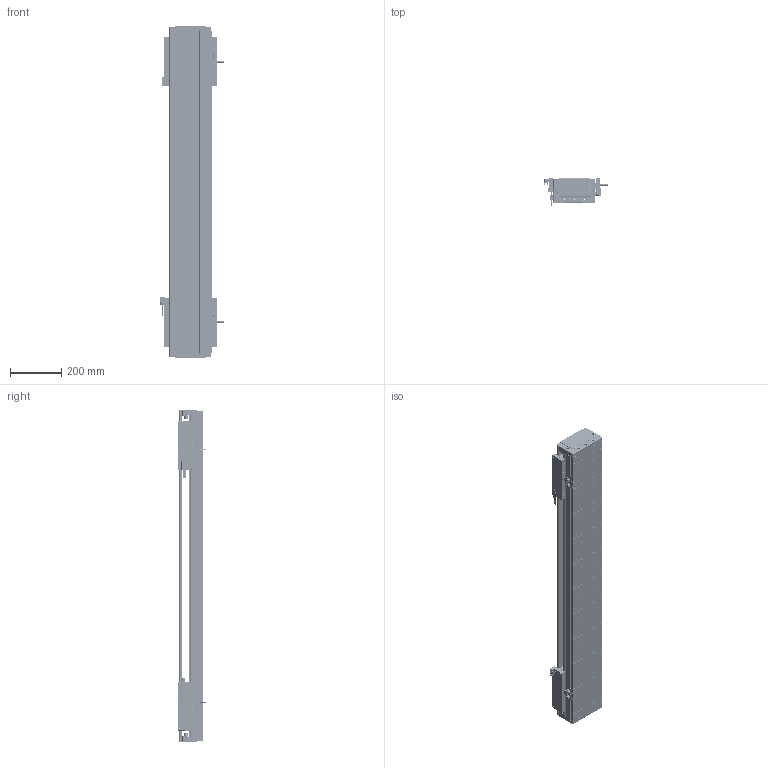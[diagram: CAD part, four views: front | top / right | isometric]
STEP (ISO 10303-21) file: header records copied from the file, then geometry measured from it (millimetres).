
FILE_DESCRIPTION (( 'STEP AP203' ), '1' );
FILE_NAME ('DA-C165-2-C2-T800-C010-0.2 直线电机.STEP', '2023-05-11T08:18:22', ( '微软用户' ), ( '微软中国' ), 'SwSTEP 2.0', 'SolidWorks 2019', '' );
FILE_SCHEMA (( 'CONFIG_CONTROL_DESIGN' ));
Length unit declared in the file: millimetre
Products named in the file (19): 复件 六角薄螺母 M3^DA-C165-C2-T-C010-0.2-N 直线电机_GB_FASTENER_NUT_STNAB M3-C; 葩璃 DA95-GT-T-00^IU-CU165-L 菁釱絳寢_T; 葩璃 PM-T45^DA-C165-C2-T-C010-0.2-N 眻盄萇儂; 葩璃 PM-Y45^DA-C165-C2-T-C010-0.2-N 眻盄萇儂; 葩璃 CKM01-W075-TRL^DA-C165-C2-T-C010-0.2-N 眻盄萇儂; 复件 66338-1000-006-00 光电感应块^DA-C165-C2-T-C010-0.2-N 直线电机; IU-CU165-L-00 菁釱_L1260; 复件 DA165-GYP-00 光电感应片^DA-C165-C2-T-C010-0.2-N 直线电机; 复件 DKW-HXJ-JY-00 缓冲橡胶^DA-C165-C2-T-C010-0.2-N 直线电机; 复件 CKM02-W075-C1C2-TP-3.0 一体电机-C2^DA-C165-C2-T-C010-0.2-N 直线电机; 复件 XD-U-02L 磁栅尺^DA-C165-C2-T-C010-0.2-N 直线电机_T; 复件 DA126-GYP-ZJ-00 中间光电感应片^DA-C165-C2-T-C010-0.2-N 直线电机; 复件 DA95-HXJ-00 缓冲橡胶^DA-C165-C2-T-C010-0.2-N 直线电机; IU-CU165-L 菁釱絳寢; 复件 DMA-010-0.2 读数头^DA-C165-C2-T-C010-0.2-N 直线电机; 复件 DA165-DG-H-N-00 端盖^DA-C165-C2-T-C010-0.2-N 直线电机; 珨极趙賑雄怢啣wf-C2; 复件 DA165-T-002-00 盖板^DA-C165-C2-T-C010-0.2-N 直线电机_0840-002-00; DA-C165-2-C2-T800-C010-0.2 眻盄萇儂
Assembly tree (38 placements, depth 3):
  DA-C165-2-C2-T800-C010-0.2 眻盄萇儂
    IU-CU165-L 菁釱絳寢
      IU-CU165-L-00 菁釱_L1260
      葩璃 DA95-GT-T-00^IU-CU165-L 菁釱絳寢_T  x4
    复件 DA165-DG-H-N-00 端盖^DA-C165-C2-T-C010-0.2-N 直线电机  x2
    复件 DA95-HXJ-00 缓冲橡胶^DA-C165-C2-T-C010-0.2-N 直线电机  x4
    复件 DA165-T-002-00 盖板^DA-C165-C2-T-C010-0.2-N 直线电机_0840-002-00
    复件 XD-U-02L 磁栅尺^DA-C165-C2-T-C010-0.2-N 直线电机_T
    葩璃 PM-T45^DA-C165-C2-T-C010-0.2-N 眻盄萇儂  x4
    葩璃 CKM01-W075-TRL^DA-C165-C2-T-C010-0.2-N 眻盄萇儂
    复件 CKM02-W075-C1C2-TP-3.0 一体电机-C2^DA-C165-C2-T-C010-0.2-N 直线电机  x2
    复件 DMA-010-0.2 读数头^DA-C165-C2-T-C010-0.2-N 直线电机  x2
    复件 DA165-GYP-00 光电感应片^DA-C165-C2-T-C010-0.2-N 直线电机  x2
    复件 66338-1000-006-00 光电感应块^DA-C165-C2-T-C010-0.2-N 直线电机
    葩璃 PM-Y45^DA-C165-C2-T-C010-0.2-N 眻盄萇儂
    复件 DA126-GYP-ZJ-00 中间光电感应片^DA-C165-C2-T-C010-0.2-N 直线电机
    复件 DKW-HXJ-JY-00 缓冲橡胶^DA-C165-C2-T-C010-0.2-N 直线电机  x2
    复件 六角薄螺母 M3^DA-C165-C2-T-C010-0.2-N 直线电机_GB_FASTENER_NUT_STNAB M3-C  x6
    珨极趙賑雄怢啣wf-C2  x2
Bounding box: 247.2 x 111.45 x 1300 mm (x, y, z)
Volume: 10666827.6 mm3; surface area: 2818329.2 mm2
Topology: 115 solids, 115 shells, 4972 faces, 13381 edges, 8344 vertices
Faces by surface type: cylinder 2422, plane 1774, cone 680, torus 88, sphere 8
Entity records: 103888 total; most frequent: CARTESIAN_POINT 24692, DIRECTION 16135, ORIENTED_EDGE 16008, EDGE_CURVE 8004, AXIS2_PLACEMENT_3D 6024, VERTEX_POINT 5181, LINE 4087, VECTOR 4087
